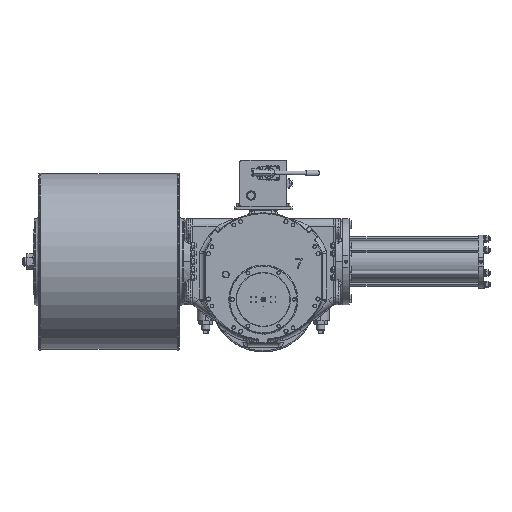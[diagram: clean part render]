
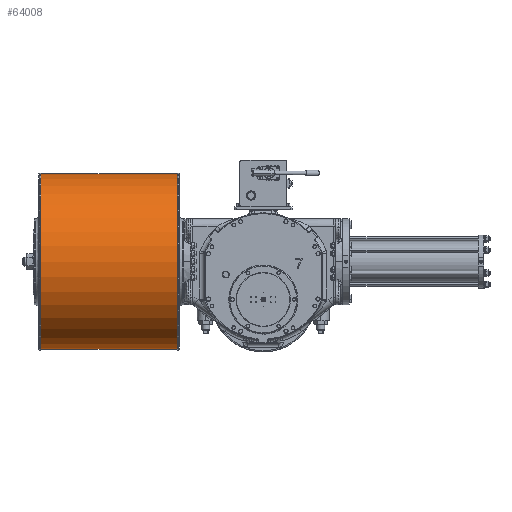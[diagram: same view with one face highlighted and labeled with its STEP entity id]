
A CAD part, top view. The second image highlights one B-rep face of the part: STEP entity #64008.
In plain terms, the highlighted cylindrical face has radius 470 mm (diameter 940 mm), a partial arc.
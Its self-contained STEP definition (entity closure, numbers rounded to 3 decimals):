
#775 = VERTEX_POINT ( 'NONE', #50343 ) ;
#15513 = ORIENTED_EDGE ( 'NONE', *, *, #137752, .T. ) ;
#22787 = EDGE_LOOP ( 'NONE', ( #97004, #15513, #106804, #54032 ) ) ;
#23897 = CARTESIAN_POINT ( 'NONE',  ( -461., 203., 168. ) ) ;
#34317 = EDGE_CURVE ( 'NONE', #108981, #66208, #75170, .T. ) ;
#36460 = DIRECTION ( 'NONE',  ( -1., 0., 0. ) ) ;
#44745 = CARTESIAN_POINT ( 'NONE',  ( -461., -267., 168. ) ) ;
#50343 = CARTESIAN_POINT ( 'NONE',  ( -1191., 673., 168. ) ) ;
#53419 = CARTESIAN_POINT ( 'NONE',  ( -1191., 203., 168. ) ) ;
#54032 = ORIENTED_EDGE ( 'NONE', *, *, #133884, .F. ) ;
#55667 = DIRECTION ( 'NONE',  ( 0., -1., 0. ) ) ;
#56582 = DIRECTION ( 'NONE',  ( -1., 0., 0. ) ) ;
#57036 = CARTESIAN_POINT ( 'NONE',  ( -461., 203., 168. ) ) ;
#57605 = DIRECTION ( 'NONE',  ( -1., 0., 0. ) ) ;
#58320 = VECTOR ( 'NONE', #112374, 1000. ) ;
#59991 = CARTESIAN_POINT ( 'NONE',  ( -461., -267., 168. ) ) ;
#64008 = ADVANCED_FACE ( 'NONE', ( #139702 ), #126878, .T. ) ;
#64796 = VECTOR ( 'NONE', #57605, 1000. ) ;
#66073 = CARTESIAN_POINT ( 'NONE',  ( -461., 673., 168. ) ) ;
#66208 = VERTEX_POINT ( 'NONE', #142678 ) ;
#67828 = DIRECTION ( 'NONE',  ( 1., 0., 0. ) ) ;
#75170 = CIRCLE ( 'NONE', #89669, 470. ) ;
#89669 = AXIS2_PLACEMENT_3D ( 'NONE', #23897, #56582, #115026 ) ;
#97004 = ORIENTED_EDGE ( 'NONE', *, *, #34317, .T. ) ;
#106659 = EDGE_CURVE ( 'NONE', #775, #127253, #126585, .T. ) ;
#106804 = ORIENTED_EDGE ( 'NONE', *, *, #106659, .T. ) ;
#108981 = VERTEX_POINT ( 'NONE', #59991 ) ;
#112374 = DIRECTION ( 'NONE',  ( -1., 0., 0. ) ) ;
#114572 = LINE ( 'NONE', #44745, #64796 ) ;
#115026 = DIRECTION ( 'NONE',  ( 0., -1., 0. ) ) ;
#126585 = CIRCLE ( 'NONE', #145972, 470. ) ;
#126878 = CYLINDRICAL_SURFACE ( 'NONE', #144668, 470. ) ;
#127253 = VERTEX_POINT ( 'NONE', #135861 ) ;
#133884 = EDGE_CURVE ( 'NONE', #108981, #127253, #114572, .T. ) ;
#135861 = CARTESIAN_POINT ( 'NONE',  ( -1191., -267., 168. ) ) ;
#136640 = LINE ( 'NONE', #66073, #58320 ) ;
#137752 = EDGE_CURVE ( 'NONE', #66208, #775, #136640, .T. ) ;
#139702 = FACE_OUTER_BOUND ( 'NONE', #22787, .T. ) ;
#142678 = CARTESIAN_POINT ( 'NONE',  ( -461., 673., 168. ) ) ;
#144668 = AXIS2_PLACEMENT_3D ( 'NONE', #57036, #36460, #149664 ) ;
#145972 = AXIS2_PLACEMENT_3D ( 'NONE', #53419, #67828, #55667 ) ;
#149664 = DIRECTION ( 'NONE',  ( 0., -1., 0. ) ) ;
